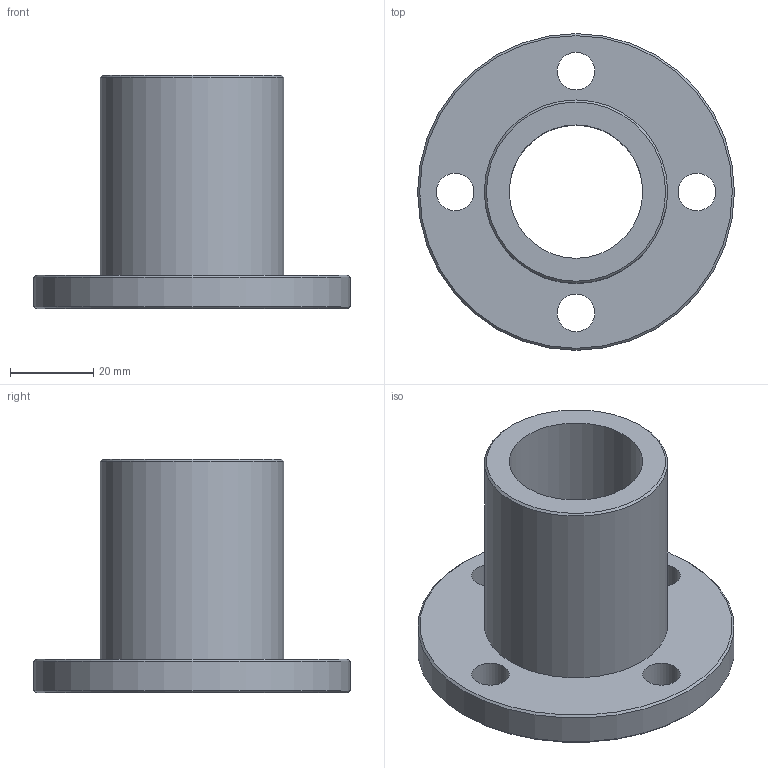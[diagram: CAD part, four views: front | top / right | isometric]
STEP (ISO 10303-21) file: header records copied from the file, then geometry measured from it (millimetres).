
FILE_DESCRIPTION(('STEP AP203'),'1');
FILE_NAME('//192.168.1.1/share/s-4 技術開発/s-4-4_CAD/s-4-4-3_見直し済み/018 修正済み/TMFON/TMFON_TOP/TMFON-32R.step','2022-02-08T05:35:24',(' '),(' '),'Spatial InterOp 3D',' ',' ');
FILE_SCHEMA(('CONFIG_CONTROL_DESIGN'));
Length unit declared in the file: millimetre
Products named in the file (1): 1
Bounding box: 76 x 76 x 56 mm (x, y, z)
Volume: 62127 mm3; surface area: 21853.8 mm2
Topology: 1 solids, 1 shells, 13 faces, 27 edges, 17 vertices
Faces by surface type: cylinder 7, plane 3, cone 3
Full cylindrical faces by diameter (mm): 9 x4, 32 x1, 44 x1, 76 x1
Entity records: 368 total; most frequent: DIRECTION 62, CARTESIAN_POINT 48, EDGE_LOOP 34, ORIENTED_EDGE 34, AXIS2_PLACEMENT_3D 31, FACE_OUTER_BOUND 20, EDGE_CURVE 17, VERTEX_POINT 17
